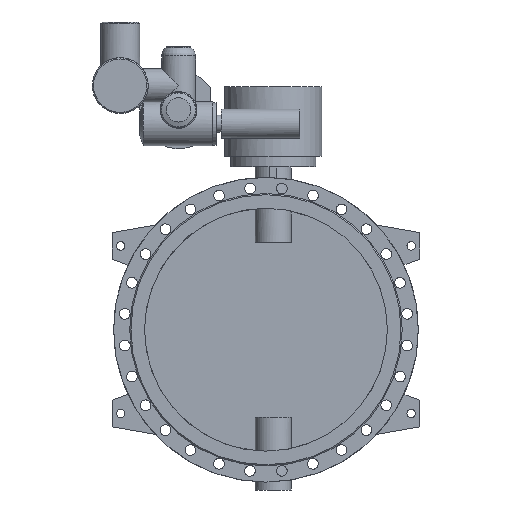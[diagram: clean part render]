
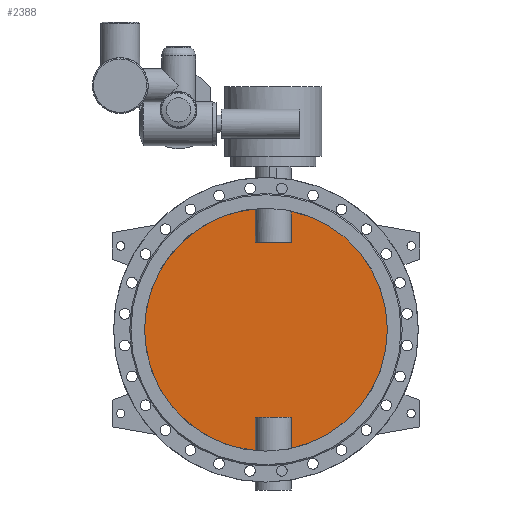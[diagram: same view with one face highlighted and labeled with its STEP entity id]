
A CAD part, front view. The second image highlights one B-rep face of the part: STEP entity #2388.
In plain terms, the highlighted planar face has unit normal (0, -1, 0).
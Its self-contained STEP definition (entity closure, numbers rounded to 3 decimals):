
#2388=ADVANCED_FACE('',(#4833),#4835,.F.);
#4833=FACE_BOUND('',#4834,.T.);
#4834=EDGE_LOOP('',(#5903,#5904,#5905,#5906,#5907,#5908,#5909,#5910));
#4835=PLANE('',#4836);
#4836=AXIS2_PLACEMENT_3D('',#4837,#4838,#4839);
#4837=CARTESIAN_POINT('',(0.,-5.,0.));
#4838=DIRECTION('',(0.,1.,0.));
#4839=DIRECTION('',(1.,0.,0.));
#5903=ORIENTED_EDGE('',*,*,#6439,.T.);
#5904=ORIENTED_EDGE('',*,*,#6444,.T.);
#5905=ORIENTED_EDGE('',*,*,#6445,.T.);
#5906=ORIENTED_EDGE('',*,*,#6446,.T.);
#5907=ORIENTED_EDGE('',*,*,#6441,.T.);
#5908=ORIENTED_EDGE('',*,*,#6447,.T.);
#5909=ORIENTED_EDGE('',*,*,#6448,.T.);
#5910=ORIENTED_EDGE('',*,*,#6449,.T.);
#6439=EDGE_CURVE('',#7385,#7386,#7387,.F.);
#6441=EDGE_CURVE('',#7390,#7388,#7391,.F.);
#6444=EDGE_CURVE('',#7386,#7395,#7396,.T.);
#6445=EDGE_CURVE('',#7395,#7397,#7398,.F.);
#6446=EDGE_CURVE('',#7397,#7390,#7399,.F.);
#6447=EDGE_CURVE('',#7388,#7400,#7401,.F.);
#6448=EDGE_CURVE('',#7400,#7402,#7403,.F.);
#6449=EDGE_CURVE('',#7402,#7385,#7404,.T.);
#7385=VERTEX_POINT('',#11583);
#7386=VERTEX_POINT('',#11584);
#7387=CIRCLE('',#11585,500.);
#7388=VERTEX_POINT('',#11589);
#7390=VERTEX_POINT('',#11687);
#7391=CIRCLE('',#11688,500.);
#7395=VERTEX_POINT('',#11793);
#7396=LINE('',#11794,#11795);
#7397=VERTEX_POINT('',#11797);
#7398=LINE('',#11798,#11799);
#7399=LINE('',#11801,#11802);
#7400=VERTEX_POINT('',#11804);
#7401=LINE('',#11805,#11806);
#7402=VERTEX_POINT('',#11808);
#7403=LINE('',#11809,#11810);
#7404=LINE('',#11812,#11813);
#11583=CARTESIAN_POINT('',(104.833,-5.,-488.887));
#11584=CARTESIAN_POINT('',(104.833,-5.,488.887));
#11585=AXIS2_PLACEMENT_3D('',#11586,#11587,#11588);
#11586=CARTESIAN_POINT('',(0.,-5.,0.));
#11587=DIRECTION('',(0.,1.,0.));
#11588=DIRECTION('',(0.21,0.,0.978));
#11589=CARTESIAN_POINT('',(-44.833,-5.,-497.986));
#11687=CARTESIAN_POINT('',(-44.833,-5.,497.986));
#11688=AXIS2_PLACEMENT_3D('',#11689,#11690,#11691);
#11689=CARTESIAN_POINT('',(0.,-5.,0.));
#11690=DIRECTION('',(0.,1.,0.));
#11691=DIRECTION('',(-0.09,0.,-0.996));
#11793=CARTESIAN_POINT('',(104.833,-5.,360.));
#11794=CARTESIAN_POINT('',(104.833,-5.,488.887));
#11795=VECTOR('',#11796,1.);
#11796=DIRECTION('',(0.,0.,-1.));
#11797=CARTESIAN_POINT('',(-44.833,-5.,360.));
#11798=CARTESIAN_POINT('',(-44.833,-5.,360.));
#11799=VECTOR('',#11800,1.);
#11800=DIRECTION('',(1.,0.,0.));
#11801=CARTESIAN_POINT('',(-44.833,-5.,497.986));
#11802=VECTOR('',#11803,1.);
#11803=DIRECTION('',(0.,0.,-1.));
#11804=CARTESIAN_POINT('',(-44.833,-5.,-360.));
#11805=CARTESIAN_POINT('',(-44.833,-5.,-360.));
#11806=VECTOR('',#11807,1.);
#11807=DIRECTION('',(0.,0.,-1.));
#11808=CARTESIAN_POINT('',(104.833,-5.,-360.));
#11809=CARTESIAN_POINT('',(104.833,-5.,-360.));
#11810=VECTOR('',#11811,1.);
#11811=DIRECTION('',(-1.,0.,0.));
#11812=CARTESIAN_POINT('',(104.833,-5.,-360.));
#11813=VECTOR('',#11814,1.);
#11814=DIRECTION('',(0.,0.,-1.));
